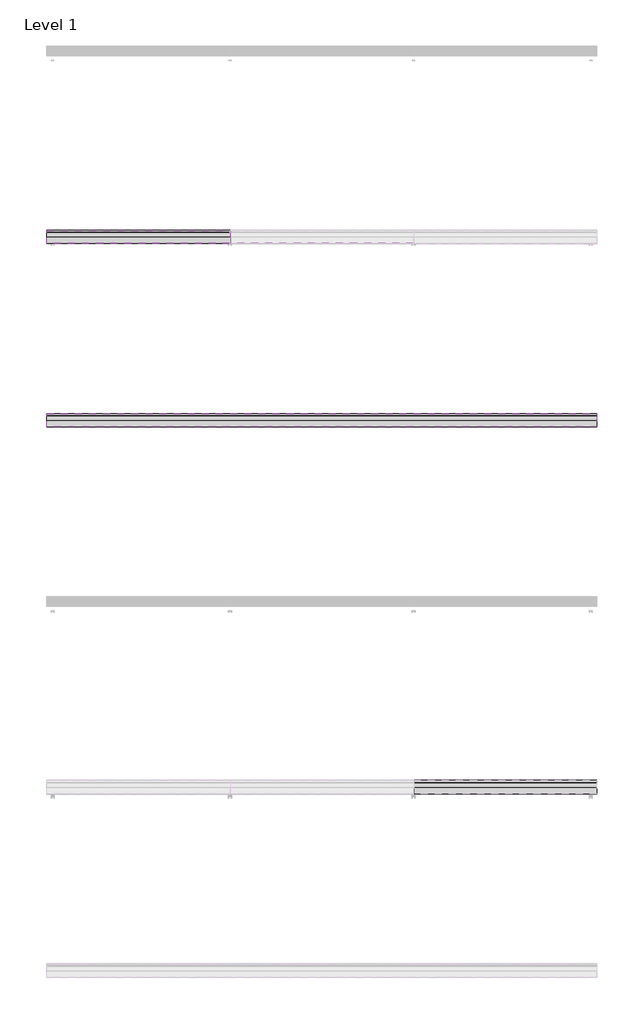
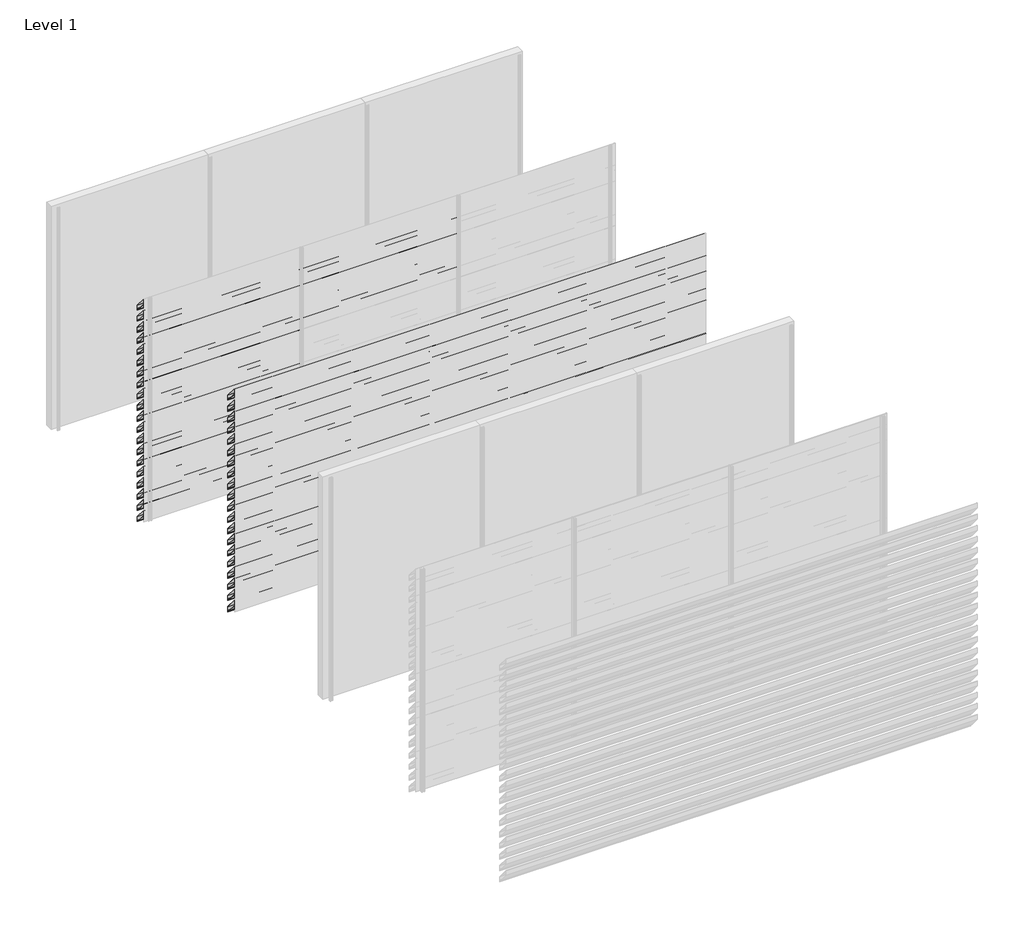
# One storey, part 14 of 16: 56 proxies.
"""IFC4 building model written with IfcOpenShell, lengths in millimetres."""

from ifc_helpers import new_model, si_unit, frame, origin, place, context, project, spatial, polyline, outline, extrude, element, save

model = new_model("IFC4")

# Units and contexts
model_context = context("Model", 3, world=origin())
ifc_project = project(units=[si_unit("LENGTHUNIT", "METRE", prefix="MILLI")], contexts=[model_context])

# Site, building, storey
site = spatial("IfcSite", under=ifc_project)
building = spatial("IfcBuilding", under=site)
storey = spatial("IfcBuildingStorey", under=building, Name="Level 1", Elevation=0.0)

# Proxies
placement = place(None, origin())
element("IfcBuildingElementProxy", 1, Name="Wall Sweeps", at=placement, inside=storey, context=model_context, shape_type="SweptSolid", body=[
    extrude(outline(polyline([(-5851.0, 2830.0), (-5851.0, 2761.0), (-5853.5, 2762.1657691), (-5853.5, 2775.7059843), (-5870.2498671, 2795.6676986), (-5880.9351065, 2795.6676986), (-5998.0, 2935.1802059), (-5998.0, 3000.0), (-5993.6469373, 3000.0), (-5851.0, 2830.0)]), holes=[polyline([(-5996.1, 2998.1), (-5996.1, 2935.8717493), (-5880.049122, 2797.5676986), (-5869.3638825, 2797.5676986), (-5852.9, 2777.9468074), (-5852.9, 2829.3084566), (-5994.5329219, 2998.1), (-5996.1, 2998.1)])]), frame((0.0, 0.0, 0.0), z_axis=(1.0, 0.0, 0.0), x_axis=(0.0, 1.0, 0.0)), (0.0, 0.0, 1.0), 2000.0),
])
element("IfcBuildingElementProxy", 2, Name="Wall Sweeps", at=placement, inside=storey, context=model_context, shape_type="SweptSolid", body=[
    extrude(outline(polyline([(-5851.0, 2680.0), (-5851.0, 2611.0), (-5853.5, 2612.1657691), (-5853.5, 2625.7059843), (-5870.2498671, 2645.6676986), (-5880.9351065, 2645.6676986), (-5998.0, 2785.1802059), (-5998.0, 2850.0), (-5993.6469373, 2850.0), (-5851.0, 2680.0)]), holes=[polyline([(-5996.1, 2848.1), (-5996.1, 2785.8717493), (-5880.049122, 2647.5676986), (-5869.3638825, 2647.5676986), (-5852.9, 2627.9468074), (-5852.9, 2679.3084566), (-5994.5329219, 2848.1), (-5996.1, 2848.1)])]), frame((0.0, 0.0, 0.0), z_axis=(1.0, 0.0, 0.0), x_axis=(0.0, 1.0, 0.0)), (0.0, 0.0, 1.0), 2000.0),
])
element("IfcBuildingElementProxy", 3, Name="Wall Sweeps", at=placement, inside=storey, context=model_context, shape_type="SweptSolid", body=[
    extrude(outline(polyline([(-5851.0, 2530.0), (-5851.0, 2461.0), (-5853.5, 2462.1657691), (-5853.5, 2475.7059843), (-5870.2498671, 2495.6676986), (-5880.9351065, 2495.6676986), (-5998.0, 2635.1802059), (-5998.0, 2700.0), (-5993.6469373, 2700.0), (-5851.0, 2530.0)]), holes=[polyline([(-5996.1, 2698.1), (-5996.1, 2635.8717493), (-5880.049122, 2497.5676986), (-5869.3638825, 2497.5676986), (-5852.9, 2477.9468074), (-5852.9, 2529.3084566), (-5994.5329219, 2698.1), (-5996.1, 2698.1)])]), frame((0.0, 0.0, 0.0), z_axis=(1.0, 0.0, 0.0), x_axis=(0.0, 1.0, 0.0)), (0.0, 0.0, 1.0), 2000.0),
])
element("IfcBuildingElementProxy", 4, Name="Wall Sweeps", at=placement, inside=storey, context=model_context, shape_type="SweptSolid", body=[
    extrude(outline(polyline([(-5851.0, 2380.0), (-5851.0, 2311.0), (-5853.5, 2312.1657691), (-5853.5, 2325.7059843), (-5870.2498671, 2345.6676986), (-5880.9351065, 2345.6676986), (-5998.0, 2485.1802059), (-5998.0, 2550.0), (-5993.6469373, 2550.0), (-5851.0, 2380.0)]), holes=[polyline([(-5996.1, 2548.1), (-5996.1, 2485.8717493), (-5880.049122, 2347.5676986), (-5869.3638825, 2347.5676986), (-5852.9, 2327.9468074), (-5852.9, 2379.3084566), (-5994.5329219, 2548.1), (-5996.1, 2548.1)])]), frame((0.0, 0.0, 0.0), z_axis=(1.0, 0.0, 0.0), x_axis=(0.0, 1.0, 0.0)), (0.0, 0.0, 1.0), 2000.0),
])
element("IfcBuildingElementProxy", 5, Name="Wall Sweeps", at=placement, inside=storey, context=model_context, shape_type="SweptSolid", body=[
    extrude(outline(polyline([(-5851.0, 2230.0), (-5851.0, 2161.0), (-5853.5, 2162.1657691), (-5853.5, 2175.7059843), (-5870.2498671, 2195.6676986), (-5880.9351065, 2195.6676986), (-5998.0, 2335.1802059), (-5998.0, 2400.0), (-5993.6469373, 2400.0), (-5851.0, 2230.0)]), holes=[polyline([(-5996.1, 2398.1), (-5996.1, 2335.8717493), (-5880.049122, 2197.5676986), (-5869.3638825, 2197.5676986), (-5852.9, 2177.9468074), (-5852.9, 2229.3084566), (-5994.5329219, 2398.1), (-5996.1, 2398.1)])]), frame((0.0, 0.0, 0.0), z_axis=(1.0, 0.0, 0.0), x_axis=(0.0, 1.0, 0.0)), (0.0, 0.0, 1.0), 2000.0),
])
element("IfcBuildingElementProxy", 6, Name="Wall Sweeps", at=placement, inside=storey, context=model_context, shape_type="SweptSolid", body=[
    extrude(outline(polyline([(-5851.0, 2080.0), (-5851.0, 2011.0), (-5853.5, 2012.1657691), (-5853.5, 2025.7059843), (-5870.2498671, 2045.6676986), (-5880.9351065, 2045.6676986), (-5998.0, 2185.1802059), (-5998.0, 2250.0), (-5993.6469373, 2250.0), (-5851.0, 2080.0)]), holes=[polyline([(-5996.1, 2248.1), (-5996.1, 2185.8717493), (-5880.049122, 2047.5676986), (-5869.3638825, 2047.5676986), (-5852.9, 2027.9468074), (-5852.9, 2079.3084566), (-5994.5329219, 2248.1), (-5996.1, 2248.1)])]), frame((0.0, 0.0, 0.0), z_axis=(1.0, 0.0, 0.0), x_axis=(0.0, 1.0, 0.0)), (0.0, 0.0, 1.0), 2000.0),
])
element("IfcBuildingElementProxy", 7, Name="Wall Sweeps", at=placement, inside=storey, context=model_context, shape_type="SweptSolid", body=[
    extrude(outline(polyline([(-5851.0, 1930.0), (-5851.0, 1861.0), (-5853.5, 1862.1657691), (-5853.5, 1875.7059843), (-5870.2498671, 1895.6676986), (-5880.9351065, 1895.6676986), (-5998.0, 2035.1802059), (-5998.0, 2100.0), (-5993.6469373, 2100.0), (-5851.0, 1930.0)]), holes=[polyline([(-5996.1, 2098.1), (-5996.1, 2035.8717493), (-5880.049122, 1897.5676986), (-5869.3638825, 1897.5676986), (-5852.9, 1877.9468074), (-5852.9, 1929.3084566), (-5994.5329219, 2098.1), (-5996.1, 2098.1)])]), frame((0.0, 0.0, 0.0), z_axis=(1.0, 0.0, 0.0), x_axis=(0.0, 1.0, 0.0)), (0.0, 0.0, 1.0), 2000.0),
])
element("IfcBuildingElementProxy", 8, Name="Wall Sweeps", at=placement, inside=storey, context=model_context, shape_type="SweptSolid", body=[
    extrude(outline(polyline([(-5851.0, 1780.0), (-5851.0, 1711.0), (-5853.5, 1712.1657691), (-5853.5, 1725.7059843), (-5870.2498671, 1745.6676986), (-5880.9351065, 1745.6676986), (-5998.0, 1885.1802059), (-5998.0, 1950.0), (-5993.6469373, 1950.0), (-5851.0, 1780.0)]), holes=[polyline([(-5996.1, 1948.1), (-5996.1, 1885.8717493), (-5880.049122, 1747.5676986), (-5869.3638825, 1747.5676986), (-5852.9, 1727.9468074), (-5852.9, 1779.3084566), (-5994.5329219, 1948.1), (-5996.1, 1948.1)])]), frame((0.0, 0.0, 0.0), z_axis=(1.0, 0.0, 0.0), x_axis=(0.0, 1.0, 0.0)), (0.0, 0.0, 1.0), 2000.0),
])
element("IfcBuildingElementProxy", 9, Name="Wall Sweeps", at=placement, inside=storey, context=model_context, shape_type="SweptSolid", body=[
    extrude(outline(polyline([(-5851.0, 1630.0), (-5851.0, 1561.0), (-5853.5, 1562.1657691), (-5853.5, 1575.7059843), (-5870.2498671, 1595.6676986), (-5880.9351065, 1595.6676986), (-5998.0, 1735.1802059), (-5998.0, 1800.0), (-5993.6469373, 1800.0), (-5851.0, 1630.0)]), holes=[polyline([(-5996.1, 1798.1), (-5996.1, 1735.8717493), (-5880.049122, 1597.5676986), (-5869.3638825, 1597.5676986), (-5852.9, 1577.9468074), (-5852.9, 1629.3084566), (-5994.5329219, 1798.1), (-5996.1, 1798.1)])]), frame((0.0, 0.0, 0.0), z_axis=(1.0, 0.0, 0.0), x_axis=(0.0, 1.0, 0.0)), (0.0, 0.0, 1.0), 2000.0),
])
element("IfcBuildingElementProxy", 10, Name="Wall Sweeps", at=placement, inside=storey, context=model_context, shape_type="SweptSolid", body=[
    extrude(outline(polyline([(-5851.0, 1480.0), (-5851.0, 1411.0), (-5853.5, 1412.1657691), (-5853.5, 1425.7059843), (-5870.2498671, 1445.6676986), (-5880.9351065, 1445.6676986), (-5998.0, 1585.1802059), (-5998.0, 1650.0), (-5993.6469373, 1650.0), (-5851.0, 1480.0)]), holes=[polyline([(-5996.1, 1648.1), (-5996.1, 1585.8717493), (-5880.049122, 1447.5676986), (-5869.3638825, 1447.5676986), (-5852.9, 1427.9468074), (-5852.9, 1479.3084566), (-5994.5329219, 1648.1), (-5996.1, 1648.1)])]), frame((0.0, 0.0, 0.0), z_axis=(1.0, 0.0, 0.0), x_axis=(0.0, 1.0, 0.0)), (0.0, 0.0, 1.0), 2000.0),
])
element("IfcBuildingElementProxy", 11, Name="Wall Sweeps", at=placement, inside=storey, context=model_context, shape_type="SweptSolid", body=[
    extrude(outline(polyline([(-5851.0, 1330.0), (-5851.0, 1261.0), (-5853.5, 1262.1657691), (-5853.5, 1275.7059843), (-5870.2498671, 1295.6676986), (-5880.9351065, 1295.6676986), (-5998.0, 1435.1802059), (-5998.0, 1500.0), (-5993.6469373, 1500.0), (-5851.0, 1330.0)]), holes=[polyline([(-5996.1, 1498.1), (-5996.1, 1435.8717493), (-5880.049122, 1297.5676986), (-5869.3638825, 1297.5676986), (-5852.9, 1277.9468074), (-5852.9, 1329.3084566), (-5994.5329219, 1498.1), (-5996.1, 1498.1)])]), frame((0.0, 0.0, 0.0), z_axis=(1.0, 0.0, 0.0), x_axis=(0.0, 1.0, 0.0)), (0.0, 0.0, 1.0), 2000.0),
])
element("IfcBuildingElementProxy", 12, Name="Wall Sweeps", at=placement, inside=storey, context=model_context, shape_type="SweptSolid", body=[
    extrude(outline(polyline([(-5851.0, 1180.0), (-5851.0, 1111.0), (-5853.5, 1112.1657691), (-5853.5, 1125.7059843), (-5870.2498671, 1145.6676986), (-5880.9351065, 1145.6676986), (-5998.0, 1285.1802059), (-5998.0, 1350.0), (-5993.6469373, 1350.0), (-5851.0, 1180.0)]), holes=[polyline([(-5996.1, 1348.1), (-5996.1, 1285.8717493), (-5880.049122, 1147.5676986), (-5869.3638825, 1147.5676986), (-5852.9, 1127.9468074), (-5852.9, 1179.3084566), (-5994.5329219, 1348.1), (-5996.1, 1348.1)])]), frame((0.0, 0.0, 0.0), z_axis=(1.0, 0.0, 0.0), x_axis=(0.0, 1.0, 0.0)), (0.0, 0.0, 1.0), 2000.0),
])
element("IfcBuildingElementProxy", 13, Name="Wall Sweeps", at=placement, inside=storey, context=model_context, shape_type="SweptSolid", body=[
    extrude(outline(polyline([(-5851.0, 1030.0), (-5851.0, 961.0), (-5853.5, 962.1657691), (-5853.5, 975.7059843), (-5870.2498671, 995.6676986), (-5880.9351065, 995.6676986), (-5998.0, 1135.1802059), (-5998.0, 1200.0), (-5993.6469373, 1200.0), (-5851.0, 1030.0)]), holes=[polyline([(-5996.1, 1198.1), (-5996.1, 1135.8717493), (-5880.049122, 997.5676986), (-5869.3638825, 997.5676986), (-5852.9, 977.9468074), (-5852.9, 1029.3084566), (-5994.5329219, 1198.1), (-5996.1, 1198.1)])]), frame((0.0, 0.0, 0.0), z_axis=(1.0, 0.0, 0.0), x_axis=(0.0, 1.0, 0.0)), (0.0, 0.0, 1.0), 2000.0),
])
element("IfcBuildingElementProxy", 14, Name="Wall Sweeps", at=placement, inside=storey, context=model_context, shape_type="SweptSolid", body=[
    extrude(outline(polyline([(-5851.0, 880.0), (-5851.0, 811.0), (-5853.5, 812.1657691), (-5853.5, 825.7059843), (-5870.2498671, 845.6676986), (-5880.9351065, 845.6676986), (-5998.0, 985.1802059), (-5998.0, 1050.0), (-5993.6469373, 1050.0), (-5851.0, 880.0)]), holes=[polyline([(-5996.1, 1048.1), (-5996.1, 985.8717493), (-5880.049122, 847.5676986), (-5869.3638825, 847.5676986), (-5852.9, 827.9468074), (-5852.9, 879.3084566), (-5994.5329219, 1048.1), (-5996.1, 1048.1)])]), frame((0.0, 0.0, 0.0), z_axis=(1.0, 0.0, 0.0), x_axis=(0.0, 1.0, 0.0)), (0.0, 0.0, 1.0), 2000.0),
])
element("IfcBuildingElementProxy", 15, Name="Wall Sweeps", at=placement, inside=storey, context=model_context, shape_type="SweptSolid", body=[
    extrude(outline(polyline([(-5851.0, 730.0), (-5851.0, 661.0), (-5853.5, 662.1657691), (-5853.5, 675.7059843), (-5870.2498671, 695.6676986), (-5880.9351065, 695.6676986), (-5998.0, 835.1802059), (-5998.0, 900.0), (-5993.6469373, 900.0), (-5851.0, 730.0)]), holes=[polyline([(-5996.1, 898.1), (-5996.1, 835.8717493), (-5880.049122, 697.5676986), (-5869.3638825, 697.5676986), (-5852.9, 677.9468074), (-5852.9, 729.3084566), (-5994.5329219, 898.1), (-5996.1, 898.1)])]), frame((0.0, 0.0, 0.0), z_axis=(1.0, 0.0, 0.0), x_axis=(0.0, 1.0, 0.0)), (0.0, 0.0, 1.0), 2000.0),
])
element("IfcBuildingElementProxy", 16, Name="Wall Sweeps", at=placement, inside=storey, context=model_context, shape_type="SweptSolid", body=[
    extrude(outline(polyline([(-5851.0, 580.0), (-5851.0, 511.0), (-5853.5, 512.1657691), (-5853.5, 525.7059843), (-5870.2498671, 545.6676986), (-5880.9351065, 545.6676986), (-5998.0, 685.1802059), (-5998.0, 750.0), (-5993.6469373, 750.0), (-5851.0, 580.0)]), holes=[polyline([(-5996.1, 748.1), (-5996.1, 685.8717493), (-5880.049122, 547.5676986), (-5869.3638825, 547.5676986), (-5852.9, 527.9468074), (-5852.9, 579.3084566), (-5994.5329219, 748.1), (-5996.1, 748.1)])]), frame((0.0, 0.0, 0.0), z_axis=(1.0, 0.0, 0.0), x_axis=(0.0, 1.0, 0.0)), (0.0, 0.0, 1.0), 2000.0),
])
element("IfcBuildingElementProxy", 17, Name="Wall Sweeps", at=placement, inside=storey, context=model_context, shape_type="SweptSolid", body=[
    extrude(outline(polyline([(-5851.0, 430.0), (-5851.0, 361.0), (-5853.5, 362.1657691), (-5853.5, 375.7059843), (-5870.2498671, 395.6676986), (-5880.9351065, 395.6676986), (-5998.0, 535.1802059), (-5998.0, 600.0), (-5993.6469373, 600.0), (-5851.0, 430.0)]), holes=[polyline([(-5996.1, 598.1), (-5996.1, 535.8717493), (-5880.049122, 397.5676986), (-5869.3638825, 397.5676986), (-5852.9, 377.9468074), (-5852.9, 429.3084566), (-5994.5329219, 598.1), (-5996.1, 598.1)])]), frame((0.0, 0.0, 0.0), z_axis=(1.0, 0.0, 0.0), x_axis=(0.0, 1.0, 0.0)), (0.0, 0.0, 1.0), 2000.0),
])
element("IfcBuildingElementProxy", 18, Name="Wall Sweeps", at=placement, inside=storey, context=model_context, shape_type="SweptSolid", body=[
    extrude(outline(polyline([(-5851.0, 280.0), (-5851.0, 211.0), (-5853.5, 212.1657691), (-5853.5, 225.7059843), (-5870.2498671, 245.6676986), (-5880.9351065, 245.6676986), (-5998.0, 385.1802059), (-5998.0, 450.0), (-5993.6469373, 450.0), (-5851.0, 280.0)]), holes=[polyline([(-5996.1, 448.1), (-5996.1, 385.8717493), (-5880.049122, 247.5676986), (-5869.3638825, 247.5676986), (-5852.9, 227.9468074), (-5852.9, 279.3084566), (-5994.5329219, 448.1), (-5996.1, 448.1)])]), frame((0.0, 0.0, 0.0), z_axis=(1.0, 0.0, 0.0), x_axis=(0.0, 1.0, 0.0)), (0.0, 0.0, 1.0), 2000.0),
])
element("IfcBuildingElementProxy", 19, Name="Wall Sweeps", at=placement, inside=storey, context=model_context, shape_type="SweptSolid", body=[
    extrude(outline(polyline([(-5851.0, 130.0), (-5851.0, 61.0), (-5853.5, 62.1657691), (-5853.5, 75.7059843), (-5870.2498671, 95.6676986), (-5880.9351065, 95.6676986), (-5998.0, 235.1802059), (-5998.0, 300.0), (-5993.6469373, 300.0), (-5851.0, 130.0)]), holes=[polyline([(-5996.1, 298.1), (-5996.1, 235.8717493), (-5880.049122, 97.5676986), (-5869.3638825, 97.5676986), (-5852.9, 77.9468074), (-5852.9, 129.3084566), (-5994.5329219, 298.1), (-5996.1, 298.1)])]), frame((0.0, 0.0, 0.0), z_axis=(1.0, 0.0, 0.0), x_axis=(0.0, 1.0, 0.0)), (0.0, 0.0, 1.0), 2000.0),
])
element("IfcBuildingElementProxy", 20, Name="Wall Sweeps", at=placement, inside=storey, context=model_context, shape_type="SweptSolid", body=[
    extrude(outline(polyline([(-5851.0, -20.0), (-5851.0, -89.0), (-5853.5, -87.8342309), (-5853.5, -74.2940157), (-5870.2498671, -54.3323014), (-5880.9351065, -54.3323014), (-5998.0, 85.1802059), (-5998.0, 150.0), (-5993.6469373, 150.0), (-5851.0, -20.0)]), holes=[polyline([(-5996.1, 148.1), (-5996.1, 85.8717493), (-5880.049122, -52.4323014), (-5869.3638825, -52.4323014), (-5852.9, -72.0531926), (-5852.9, -20.6915434), (-5994.5329219, 148.1), (-5996.1, 148.1)])]), frame((0.0, 0.0, 0.0), z_axis=(1.0, 0.0, 0.0), x_axis=(0.0, 1.0, 0.0)), (0.0, 0.0, 1.0), 2000.0),
])
element("IfcBuildingElementProxy", 21, Name="Wall Sweeps", at=placement, inside=storey, context=model_context, shape_type="SweptSolid", body=[
    extrude(outline(polyline([(-5851.0, 2830.0), (-5851.0, 2761.0), (-5853.5, 2762.1657691), (-5853.5, 2775.7059843), (-5870.2498671, 2795.6676986), (-5880.9351065, 2795.6676986), (-5998.0, 2935.1802059), (-5998.0, 3000.0), (-5993.6469373, 3000.0), (-5851.0, 2830.0)]), holes=[polyline([(-5996.1, 2998.1), (-5996.1, 2935.8717493), (-5880.049122, 2797.5676986), (-5869.3638825, 2797.5676986), (-5852.9, 2777.9468074), (-5852.9, 2829.3084566), (-5994.5329219, 2998.1), (-5996.1, 2998.1)])]), frame((2000.0, 0.0, 0.0), z_axis=(1.0, 0.0, 0.0), x_axis=(0.0, 1.0, 0.0)), (0.0, 0.0, 1.0), 2000.0),
])
element("IfcBuildingElementProxy", 22, Name="Wall Sweeps", at=placement, inside=storey, context=model_context, shape_type="SweptSolid", body=[
    extrude(outline(polyline([(-5851.0, 2680.0), (-5851.0, 2611.0), (-5853.5, 2612.1657691), (-5853.5, 2625.7059843), (-5870.2498671, 2645.6676986), (-5880.9351065, 2645.6676986), (-5998.0, 2785.1802059), (-5998.0, 2850.0), (-5993.6469373, 2850.0), (-5851.0, 2680.0)]), holes=[polyline([(-5996.1, 2848.1), (-5996.1, 2785.8717493), (-5880.049122, 2647.5676986), (-5869.3638825, 2647.5676986), (-5852.9, 2627.9468074), (-5852.9, 2679.3084566), (-5994.5329219, 2848.1), (-5996.1, 2848.1)])]), frame((2000.0, 0.0, 0.0), z_axis=(1.0, 0.0, 0.0), x_axis=(0.0, 1.0, 0.0)), (0.0, 0.0, 1.0), 2000.0),
])
element("IfcBuildingElementProxy", 23, Name="Wall Sweeps", at=placement, inside=storey, context=model_context, shape_type="SweptSolid", body=[
    extrude(outline(polyline([(-5851.0, 2530.0), (-5851.0, 2461.0), (-5853.5, 2462.1657691), (-5853.5, 2475.7059843), (-5870.2498671, 2495.6676986), (-5880.9351065, 2495.6676986), (-5998.0, 2635.1802059), (-5998.0, 2700.0), (-5993.6469373, 2700.0), (-5851.0, 2530.0)]), holes=[polyline([(-5996.1, 2698.1), (-5996.1, 2635.8717493), (-5880.049122, 2497.5676986), (-5869.3638825, 2497.5676986), (-5852.9, 2477.9468074), (-5852.9, 2529.3084566), (-5994.5329219, 2698.1), (-5996.1, 2698.1)])]), frame((2000.0, 0.0, 0.0), z_axis=(1.0, 0.0, 0.0), x_axis=(0.0, 1.0, 0.0)), (0.0, 0.0, 1.0), 2000.0),
])
element("IfcBuildingElementProxy", 24, Name="Wall Sweeps", at=placement, inside=storey, context=model_context, shape_type="SweptSolid", body=[
    extrude(outline(polyline([(-5851.0, 2380.0), (-5851.0, 2311.0), (-5853.5, 2312.1657691), (-5853.5, 2325.7059843), (-5870.2498671, 2345.6676986), (-5880.9351065, 2345.6676986), (-5998.0, 2485.1802059), (-5998.0, 2550.0), (-5993.6469373, 2550.0), (-5851.0, 2380.0)]), holes=[polyline([(-5996.1, 2548.1), (-5996.1, 2485.8717493), (-5880.049122, 2347.5676986), (-5869.3638825, 2347.5676986), (-5852.9, 2327.9468074), (-5852.9, 2379.3084566), (-5994.5329219, 2548.1), (-5996.1, 2548.1)])]), frame((2000.0, 0.0, 0.0), z_axis=(1.0, 0.0, 0.0), x_axis=(0.0, 1.0, 0.0)), (0.0, 0.0, 1.0), 2000.0),
])
element("IfcBuildingElementProxy", 25, Name="Wall Sweeps", at=placement, inside=storey, context=model_context, shape_type="SweptSolid", body=[
    extrude(outline(polyline([(-5851.0, 2230.0), (-5851.0, 2161.0), (-5853.5, 2162.1657691), (-5853.5, 2175.7059843), (-5870.2498671, 2195.6676986), (-5880.9351065, 2195.6676986), (-5998.0, 2335.1802059), (-5998.0, 2400.0), (-5993.6469373, 2400.0), (-5851.0, 2230.0)]), holes=[polyline([(-5996.1, 2398.1), (-5996.1, 2335.8717493), (-5880.049122, 2197.5676986), (-5869.3638825, 2197.5676986), (-5852.9, 2177.9468074), (-5852.9, 2229.3084566), (-5994.5329219, 2398.1), (-5996.1, 2398.1)])]), frame((2000.0, 0.0, 0.0), z_axis=(1.0, 0.0, 0.0), x_axis=(0.0, 1.0, 0.0)), (0.0, 0.0, 1.0), 2000.0),
])
element("IfcBuildingElementProxy", 26, Name="Wall Sweeps", at=placement, inside=storey, context=model_context, shape_type="SweptSolid", body=[
    extrude(outline(polyline([(-5851.0, 2080.0), (-5851.0, 2011.0), (-5853.5, 2012.1657691), (-5853.5, 2025.7059843), (-5870.2498671, 2045.6676986), (-5880.9351065, 2045.6676986), (-5998.0, 2185.1802059), (-5998.0, 2250.0), (-5993.6469373, 2250.0), (-5851.0, 2080.0)]), holes=[polyline([(-5996.1, 2248.1), (-5996.1, 2185.8717493), (-5880.049122, 2047.5676986), (-5869.3638825, 2047.5676986), (-5852.9, 2027.9468074), (-5852.9, 2079.3084566), (-5994.5329219, 2248.1), (-5996.1, 2248.1)])]), frame((2000.0, 0.0, 0.0), z_axis=(1.0, 0.0, 0.0), x_axis=(0.0, 1.0, 0.0)), (0.0, 0.0, 1.0), 2000.0),
])
element("IfcBuildingElementProxy", 27, Name="Wall Sweeps", at=placement, inside=storey, context=model_context, shape_type="SweptSolid", body=[
    extrude(outline(polyline([(-5851.0, 1930.0), (-5851.0, 1861.0), (-5853.5, 1862.1657691), (-5853.5, 1875.7059843), (-5870.2498671, 1895.6676986), (-5880.9351065, 1895.6676986), (-5998.0, 2035.1802059), (-5998.0, 2100.0), (-5993.6469373, 2100.0), (-5851.0, 1930.0)]), holes=[polyline([(-5996.1, 2098.1), (-5996.1, 2035.8717493), (-5880.049122, 1897.5676986), (-5869.3638825, 1897.5676986), (-5852.9, 1877.9468074), (-5852.9, 1929.3084566), (-5994.5329219, 2098.1), (-5996.1, 2098.1)])]), frame((2000.0, 0.0, 0.0), z_axis=(1.0, 0.0, 0.0), x_axis=(0.0, 1.0, 0.0)), (0.0, 0.0, 1.0), 2000.0),
])
element("IfcBuildingElementProxy", 28, Name="Wall Sweeps", at=placement, inside=storey, context=model_context, shape_type="SweptSolid", body=[
    extrude(outline(polyline([(-7851.0, 2830.0), (-7851.0, 2761.0), (-7853.5, 2762.1657691), (-7853.5, 2775.7059843), (-7870.2498671, 2795.6676986), (-7880.9351065, 2795.6676986), (-7998.0, 2935.1802059), (-7998.0, 3000.0), (-7993.6469373, 3000.0), (-7851.0, 2830.0)]), holes=[polyline([(-7996.1, 2998.1), (-7996.1, 2935.8717493), (-7880.049122, 2797.5676986), (-7869.3638825, 2797.5676986), (-7852.9, 2777.9468074), (-7852.9, 2829.3084566), (-7994.5329219, 2998.1), (-7996.1, 2998.1)])]), frame((0.0, 0.0, 0.0), z_axis=(1.0, 0.0, 0.0), x_axis=(0.0, 1.0, 0.0)), (0.0, 0.0, 1.0), 6000.0),
])
element("IfcBuildingElementProxy", 29, Name="Wall Sweeps", at=placement, inside=storey, context=model_context, shape_type="SweptSolid", body=[
    extrude(outline(polyline([(-7851.0, 2680.0), (-7851.0, 2611.0), (-7853.5, 2612.1657691), (-7853.5, 2625.7059843), (-7870.2498671, 2645.6676986), (-7880.9351065, 2645.6676986), (-7998.0, 2785.1802059), (-7998.0, 2850.0), (-7993.6469373, 2850.0), (-7851.0, 2680.0)]), holes=[polyline([(-7996.1, 2848.1), (-7996.1, 2785.8717493), (-7880.049122, 2647.5676986), (-7869.3638825, 2647.5676986), (-7852.9, 2627.9468074), (-7852.9, 2679.3084566), (-7994.5329219, 2848.1), (-7996.1, 2848.1)])]), frame((0.0, 0.0, 0.0), z_axis=(1.0, 0.0, 0.0), x_axis=(0.0, 1.0, 0.0)), (0.0, 0.0, 1.0), 6000.0),
])
element("IfcBuildingElementProxy", 30, Name="Wall Sweeps", at=placement, inside=storey, context=model_context, shape_type="SweptSolid", body=[
    extrude(outline(polyline([(-7851.0, 2530.0), (-7851.0, 2461.0), (-7853.5, 2462.1657691), (-7853.5, 2475.7059843), (-7870.2498671, 2495.6676986), (-7880.9351065, 2495.6676986), (-7998.0, 2635.1802059), (-7998.0, 2700.0), (-7993.6469373, 2700.0), (-7851.0, 2530.0)]), holes=[polyline([(-7996.1, 2698.1), (-7996.1, 2635.8717493), (-7880.049122, 2497.5676986), (-7869.3638825, 2497.5676986), (-7852.9, 2477.9468074), (-7852.9, 2529.3084566), (-7994.5329219, 2698.1), (-7996.1, 2698.1)])]), frame((0.0, 0.0, 0.0), z_axis=(1.0, 0.0, 0.0), x_axis=(0.0, 1.0, 0.0)), (0.0, 0.0, 1.0), 6000.0),
])
element("IfcBuildingElementProxy", 31, Name="Wall Sweeps", at=placement, inside=storey, context=model_context, shape_type="SweptSolid", body=[
    extrude(outline(polyline([(-7851.0, 2380.0), (-7851.0, 2311.0), (-7853.5, 2312.1657691), (-7853.5, 2325.7059843), (-7870.2498671, 2345.6676986), (-7880.9351065, 2345.6676986), (-7998.0, 2485.1802059), (-7998.0, 2550.0), (-7993.6469373, 2550.0), (-7851.0, 2380.0)]), holes=[polyline([(-7996.1, 2548.1), (-7996.1, 2485.8717493), (-7880.049122, 2347.5676986), (-7869.3638825, 2347.5676986), (-7852.9, 2327.9468074), (-7852.9, 2379.3084566), (-7994.5329219, 2548.1), (-7996.1, 2548.1)])]), frame((0.0, 0.0, 0.0), z_axis=(1.0, 0.0, 0.0), x_axis=(0.0, 1.0, 0.0)), (0.0, 0.0, 1.0), 6000.0),
])
element("IfcBuildingElementProxy", 32, Name="Wall Sweeps", at=placement, inside=storey, context=model_context, shape_type="SweptSolid", body=[
    extrude(outline(polyline([(-7851.0, 2230.0), (-7851.0, 2161.0), (-7853.5, 2162.1657691), (-7853.5, 2175.7059843), (-7870.2498671, 2195.6676986), (-7880.9351065, 2195.6676986), (-7998.0, 2335.1802059), (-7998.0, 2400.0), (-7993.6469373, 2400.0), (-7851.0, 2230.0)]), holes=[polyline([(-7996.1, 2398.1), (-7996.1, 2335.8717493), (-7880.049122, 2197.5676986), (-7869.3638825, 2197.5676986), (-7852.9, 2177.9468074), (-7852.9, 2229.3084566), (-7994.5329219, 2398.1), (-7996.1, 2398.1)])]), frame((0.0, 0.0, 0.0), z_axis=(1.0, 0.0, 0.0), x_axis=(0.0, 1.0, 0.0)), (0.0, 0.0, 1.0), 6000.0),
])
element("IfcBuildingElementProxy", 33, Name="Wall Sweeps", at=placement, inside=storey, context=model_context, shape_type="SweptSolid", body=[
    extrude(outline(polyline([(-7851.0, 2080.0), (-7851.0, 2011.0), (-7853.5, 2012.1657691), (-7853.5, 2025.7059843), (-7870.2498671, 2045.6676986), (-7880.9351065, 2045.6676986), (-7998.0, 2185.1802059), (-7998.0, 2250.0), (-7993.6469373, 2250.0), (-7851.0, 2080.0)]), holes=[polyline([(-7996.1, 2248.1), (-7996.1, 2185.8717493), (-7880.049122, 2047.5676986), (-7869.3638825, 2047.5676986), (-7852.9, 2027.9468074), (-7852.9, 2079.3084566), (-7994.5329219, 2248.1), (-7996.1, 2248.1)])]), frame((0.0, 0.0, 0.0), z_axis=(1.0, 0.0, 0.0), x_axis=(0.0, 1.0, 0.0)), (0.0, 0.0, 1.0), 6000.0),
])
element("IfcBuildingElementProxy", 34, Name="Wall Sweeps", at=placement, inside=storey, context=model_context, shape_type="SweptSolid", body=[
    extrude(outline(polyline([(-7851.0, 1930.0), (-7851.0, 1861.0), (-7853.5, 1862.1657691), (-7853.5, 1875.7059843), (-7870.2498671, 1895.6676986), (-7880.9351065, 1895.6676986), (-7998.0, 2035.1802059), (-7998.0, 2100.0), (-7993.6469373, 2100.0), (-7851.0, 1930.0)]), holes=[polyline([(-7996.1, 2098.1), (-7996.1, 2035.8717493), (-7880.049122, 1897.5676986), (-7869.3638825, 1897.5676986), (-7852.9, 1877.9468074), (-7852.9, 1929.3084566), (-7994.5329219, 2098.1), (-7996.1, 2098.1)])]), frame((0.0, 0.0, 0.0), z_axis=(1.0, 0.0, 0.0), x_axis=(0.0, 1.0, 0.0)), (0.0, 0.0, 1.0), 6000.0),
])
element("IfcBuildingElementProxy", 35, Name="Wall Sweeps", at=placement, inside=storey, context=model_context, shape_type="SweptSolid", body=[
    extrude(outline(polyline([(-7851.0, 1780.0), (-7851.0, 1711.0), (-7853.5, 1712.1657691), (-7853.5, 1725.7059843), (-7870.2498671, 1745.6676986), (-7880.9351065, 1745.6676986), (-7998.0, 1885.1802059), (-7998.0, 1950.0), (-7993.6469373, 1950.0), (-7851.0, 1780.0)]), holes=[polyline([(-7996.1, 1948.1), (-7996.1, 1885.8717493), (-7880.049122, 1747.5676986), (-7869.3638825, 1747.5676986), (-7852.9, 1727.9468074), (-7852.9, 1779.3084566), (-7994.5329219, 1948.1), (-7996.1, 1948.1)])]), frame((0.0, 0.0, 0.0), z_axis=(1.0, 0.0, 0.0), x_axis=(0.0, 1.0, 0.0)), (0.0, 0.0, 1.0), 6000.0),
])
element("IfcBuildingElementProxy", 36, Name="Wall Sweeps", at=placement, inside=storey, context=model_context, shape_type="SweptSolid", body=[
    extrude(outline(polyline([(-7851.0, 1630.0), (-7851.0, 1561.0), (-7853.5, 1562.1657691), (-7853.5, 1575.7059843), (-7870.2498671, 1595.6676986), (-7880.9351065, 1595.6676986), (-7998.0, 1735.1802059), (-7998.0, 1800.0), (-7993.6469373, 1800.0), (-7851.0, 1630.0)]), holes=[polyline([(-7996.1, 1798.1), (-7996.1, 1735.8717493), (-7880.049122, 1597.5676986), (-7869.3638825, 1597.5676986), (-7852.9, 1577.9468074), (-7852.9, 1629.3084566), (-7994.5329219, 1798.1), (-7996.1, 1798.1)])]), frame((0.0, 0.0, 0.0), z_axis=(1.0, 0.0, 0.0), x_axis=(0.0, 1.0, 0.0)), (0.0, 0.0, 1.0), 6000.0),
])
element("IfcBuildingElementProxy", 37, Name="Wall Sweeps", at=placement, inside=storey, context=model_context, shape_type="SweptSolid", body=[
    extrude(outline(polyline([(-7851.0, 1480.0), (-7851.0, 1411.0), (-7853.5, 1412.1657691), (-7853.5, 1425.7059843), (-7870.2498671, 1445.6676986), (-7880.9351065, 1445.6676986), (-7998.0, 1585.1802059), (-7998.0, 1650.0), (-7993.6469373, 1650.0), (-7851.0, 1480.0)]), holes=[polyline([(-7996.1, 1648.1), (-7996.1, 1585.8717493), (-7880.049122, 1447.5676986), (-7869.3638825, 1447.5676986), (-7852.9, 1427.9468074), (-7852.9, 1479.3084566), (-7994.5329219, 1648.1), (-7996.1, 1648.1)])]), frame((0.0, 0.0, 0.0), z_axis=(1.0, 0.0, 0.0), x_axis=(0.0, 1.0, 0.0)), (0.0, 0.0, 1.0), 6000.0),
])
element("IfcBuildingElementProxy", 38, Name="Wall Sweeps", at=placement, inside=storey, context=model_context, shape_type="SweptSolid", body=[
    extrude(outline(polyline([(-7851.0, 1330.0), (-7851.0, 1261.0), (-7853.5, 1262.1657691), (-7853.5, 1275.7059843), (-7870.2498671, 1295.6676986), (-7880.9351065, 1295.6676986), (-7998.0, 1435.1802059), (-7998.0, 1500.0), (-7993.6469373, 1500.0), (-7851.0, 1330.0)]), holes=[polyline([(-7996.1, 1498.1), (-7996.1, 1435.8717493), (-7880.049122, 1297.5676986), (-7869.3638825, 1297.5676986), (-7852.9, 1277.9468074), (-7852.9, 1329.3084566), (-7994.5329219, 1498.1), (-7996.1, 1498.1)])]), frame((0.0, 0.0, 0.0), z_axis=(1.0, 0.0, 0.0), x_axis=(0.0, 1.0, 0.0)), (0.0, 0.0, 1.0), 6000.0),
])
element("IfcBuildingElementProxy", 39, Name="Wall Sweeps", at=placement, inside=storey, context=model_context, shape_type="SweptSolid", body=[
    extrude(outline(polyline([(-7851.0, 1180.0), (-7851.0, 1111.0), (-7853.5, 1112.1657691), (-7853.5, 1125.7059843), (-7870.2498671, 1145.6676986), (-7880.9351065, 1145.6676986), (-7998.0, 1285.1802059), (-7998.0, 1350.0), (-7993.6469373, 1350.0), (-7851.0, 1180.0)]), holes=[polyline([(-7996.1, 1348.1), (-7996.1, 1285.8717493), (-7880.049122, 1147.5676986), (-7869.3638825, 1147.5676986), (-7852.9, 1127.9468074), (-7852.9, 1179.3084566), (-7994.5329219, 1348.1), (-7996.1, 1348.1)])]), frame((0.0, 0.0, 0.0), z_axis=(1.0, 0.0, 0.0), x_axis=(0.0, 1.0, 0.0)), (0.0, 0.0, 1.0), 6000.0),
])
element("IfcBuildingElementProxy", 40, Name="Wall Sweeps", at=placement, inside=storey, context=model_context, shape_type="SweptSolid", body=[
    extrude(outline(polyline([(-7851.0, 1030.0), (-7851.0, 961.0), (-7853.5, 962.1657691), (-7853.5, 975.7059843), (-7870.2498671, 995.6676986), (-7880.9351065, 995.6676986), (-7998.0, 1135.1802059), (-7998.0, 1200.0), (-7993.6469373, 1200.0), (-7851.0, 1030.0)]), holes=[polyline([(-7996.1, 1198.1), (-7996.1, 1135.8717493), (-7880.049122, 997.5676986), (-7869.3638825, 997.5676986), (-7852.9, 977.9468074), (-7852.9, 1029.3084566), (-7994.5329219, 1198.1), (-7996.1, 1198.1)])]), frame((0.0, 0.0, 0.0), z_axis=(1.0, 0.0, 0.0), x_axis=(0.0, 1.0, 0.0)), (0.0, 0.0, 1.0), 6000.0),
])
element("IfcBuildingElementProxy", 41, Name="Wall Sweeps", at=placement, inside=storey, context=model_context, shape_type="SweptSolid", body=[
    extrude(outline(polyline([(-7851.0, 880.0), (-7851.0, 811.0), (-7853.5, 812.1657691), (-7853.5, 825.7059843), (-7870.2498671, 845.6676986), (-7880.9351065, 845.6676986), (-7998.0, 985.1802059), (-7998.0, 1050.0), (-7993.6469373, 1050.0), (-7851.0, 880.0)]), holes=[polyline([(-7996.1, 1048.1), (-7996.1, 985.8717493), (-7880.049122, 847.5676986), (-7869.3638825, 847.5676986), (-7852.9, 827.9468074), (-7852.9, 879.3084566), (-7994.5329219, 1048.1), (-7996.1, 1048.1)])]), frame((0.0, 0.0, 0.0), z_axis=(1.0, 0.0, 0.0), x_axis=(0.0, 1.0, 0.0)), (0.0, 0.0, 1.0), 6000.0),
])
element("IfcBuildingElementProxy", 42, Name="Wall Sweeps", at=placement, inside=storey, context=model_context, shape_type="SweptSolid", body=[
    extrude(outline(polyline([(-7851.0, 730.0), (-7851.0, 661.0), (-7853.5, 662.1657691), (-7853.5, 675.7059843), (-7870.2498671, 695.6676986), (-7880.9351065, 695.6676986), (-7998.0, 835.1802059), (-7998.0, 900.0), (-7993.6469373, 900.0), (-7851.0, 730.0)]), holes=[polyline([(-7996.1, 898.1), (-7996.1, 835.8717493), (-7880.049122, 697.5676986), (-7869.3638825, 697.5676986), (-7852.9, 677.9468074), (-7852.9, 729.3084566), (-7994.5329219, 898.1), (-7996.1, 898.1)])]), frame((0.0, 0.0, 0.0), z_axis=(1.0, 0.0, 0.0), x_axis=(0.0, 1.0, 0.0)), (0.0, 0.0, 1.0), 6000.0),
])
element("IfcBuildingElementProxy", 43, Name="Wall Sweeps", at=placement, inside=storey, context=model_context, shape_type="SweptSolid", body=[
    extrude(outline(polyline([(-7851.0, 580.0), (-7851.0, 511.0), (-7853.5, 512.1657691), (-7853.5, 525.7059843), (-7870.2498671, 545.6676986), (-7880.9351065, 545.6676986), (-7998.0, 685.1802059), (-7998.0, 750.0), (-7993.6469373, 750.0), (-7851.0, 580.0)]), holes=[polyline([(-7996.1, 748.1), (-7996.1, 685.8717493), (-7880.049122, 547.5676986), (-7869.3638825, 547.5676986), (-7852.9, 527.9468074), (-7852.9, 579.3084566), (-7994.5329219, 748.1), (-7996.1, 748.1)])]), frame((0.0, 0.0, 0.0), z_axis=(1.0, 0.0, 0.0), x_axis=(0.0, 1.0, 0.0)), (0.0, 0.0, 1.0), 6000.0),
])
element("IfcBuildingElementProxy", 44, Name="Wall Sweeps", at=placement, inside=storey, context=model_context, shape_type="SweptSolid", body=[
    extrude(outline(polyline([(-7851.0, 430.0), (-7851.0, 361.0), (-7853.5, 362.1657691), (-7853.5, 375.7059843), (-7870.2498671, 395.6676986), (-7880.9351065, 395.6676986), (-7998.0, 535.1802059), (-7998.0, 600.0), (-7993.6469373, 600.0), (-7851.0, 430.0)]), holes=[polyline([(-7996.1, 598.1), (-7996.1, 535.8717493), (-7880.049122, 397.5676986), (-7869.3638825, 397.5676986), (-7852.9, 377.9468074), (-7852.9, 429.3084566), (-7994.5329219, 598.1), (-7996.1, 598.1)])]), frame((0.0, 0.0, 0.0), z_axis=(1.0, 0.0, 0.0), x_axis=(0.0, 1.0, 0.0)), (0.0, 0.0, 1.0), 6000.0),
])
element("IfcBuildingElementProxy", 45, Name="Wall Sweeps", at=placement, inside=storey, context=model_context, shape_type="SweptSolid", body=[
    extrude(outline(polyline([(-7851.0, 280.0), (-7851.0, 211.0), (-7853.5, 212.1657691), (-7853.5, 225.7059843), (-7870.2498671, 245.6676986), (-7880.9351065, 245.6676986), (-7998.0, 385.1802059), (-7998.0, 450.0), (-7993.6469373, 450.0), (-7851.0, 280.0)]), holes=[polyline([(-7996.1, 448.1), (-7996.1, 385.8717493), (-7880.049122, 247.5676986), (-7869.3638825, 247.5676986), (-7852.9, 227.9468074), (-7852.9, 279.3084566), (-7994.5329219, 448.1), (-7996.1, 448.1)])]), frame((0.0, 0.0, 0.0), z_axis=(1.0, 0.0, 0.0), x_axis=(0.0, 1.0, 0.0)), (0.0, 0.0, 1.0), 6000.0),
])
element("IfcBuildingElementProxy", 46, Name="Wall Sweeps", at=placement, inside=storey, context=model_context, shape_type="SweptSolid", body=[
    extrude(outline(polyline([(-7851.0, 130.0), (-7851.0, 61.0), (-7853.5, 62.1657691), (-7853.5, 75.7059843), (-7870.2498671, 95.6676986), (-7880.9351065, 95.6676986), (-7998.0, 235.1802059), (-7998.0, 300.0), (-7993.6469373, 300.0), (-7851.0, 130.0)]), holes=[polyline([(-7996.1, 298.1), (-7996.1, 235.8717493), (-7880.049122, 97.5676986), (-7869.3638825, 97.5676986), (-7852.9, 77.9468074), (-7852.9, 129.3084566), (-7994.5329219, 298.1), (-7996.1, 298.1)])]), frame((0.0, 0.0, 0.0), z_axis=(1.0, 0.0, 0.0), x_axis=(0.0, 1.0, 0.0)), (0.0, 0.0, 1.0), 6000.0),
])
element("IfcBuildingElementProxy", 47, Name="Wall Sweeps", at=placement, inside=storey, context=model_context, shape_type="SweptSolid", body=[
    extrude(outline(polyline([(-7851.0, -20.0), (-7851.0, -89.0), (-7853.5, -87.8342309), (-7853.5, -74.2940157), (-7870.2498671, -54.3323014), (-7880.9351065, -54.3323014), (-7998.0, 85.1802059), (-7998.0, 150.0), (-7993.6469373, 150.0), (-7851.0, -20.0)]), holes=[polyline([(-7996.1, 148.1), (-7996.1, 85.8717493), (-7880.049122, -52.4323014), (-7869.3638825, -52.4323014), (-7852.9, -72.0531926), (-7852.9, -20.6915434), (-7994.5329219, 148.1), (-7996.1, 148.1)])]), frame((0.0, 0.0, 0.0), z_axis=(1.0, 0.0, 0.0), x_axis=(0.0, 1.0, 0.0)), (0.0, 0.0, 1.0), 6000.0),
])
element("IfcBuildingElementProxy", 48, Name="Wall Sweeps", at=placement, inside=storey, context=model_context, shape_type="SweptSolid", body=[
    extrude(outline(polyline([(-11851.0, 1180.0), (-11851.0, 1111.0), (-11853.5, 1112.1657691), (-11853.5, 1125.7059843), (-11870.2498671, 1145.6676986), (-11880.9351065, 1145.6676986), (-11998.0, 1285.1802059), (-11998.0, 1350.0), (-11993.6469373, 1350.0), (-11851.0, 1180.0)]), holes=[polyline([(-11996.1, 1348.1), (-11996.1, 1285.8717493), (-11880.049122, 1147.5676986), (-11869.3638825, 1147.5676986), (-11852.9, 1127.9468074), (-11852.9, 1179.3084566), (-11994.5329219, 1348.1), (-11996.1, 1348.1)])]), frame((4000.0, 0.0, 0.0), z_axis=(1.0, 0.0, 0.0), x_axis=(0.0, 1.0, 0.0)), (0.0, 0.0, 1.0), 2000.0),
])
element("IfcBuildingElementProxy", 49, Name="Wall Sweeps", at=placement, inside=storey, context=model_context, shape_type="SweptSolid", body=[
    extrude(outline(polyline([(-11851.0, 1030.0), (-11851.0, 961.0), (-11853.5, 962.1657691), (-11853.5, 975.7059843), (-11870.2498671, 995.6676986), (-11880.9351065, 995.6676986), (-11998.0, 1135.1802059), (-11998.0, 1200.0), (-11993.6469373, 1200.0), (-11851.0, 1030.0)]), holes=[polyline([(-11996.1, 1198.1), (-11996.1, 1135.8717493), (-11880.049122, 997.5676986), (-11869.3638825, 997.5676986), (-11852.9, 977.9468074), (-11852.9, 1029.3084566), (-11994.5329219, 1198.1), (-11996.1, 1198.1)])]), frame((4000.0, 0.0, 0.0), z_axis=(1.0, 0.0, 0.0), x_axis=(0.0, 1.0, 0.0)), (0.0, 0.0, 1.0), 2000.0),
])
element("IfcBuildingElementProxy", 50, Name="Wall Sweeps", at=placement, inside=storey, context=model_context, shape_type="SweptSolid", body=[
    extrude(outline(polyline([(-11851.0, 880.0), (-11851.0, 811.0), (-11853.5, 812.1657691), (-11853.5, 825.7059843), (-11870.2498671, 845.6676986), (-11880.9351065, 845.6676986), (-11998.0, 985.1802059), (-11998.0, 1050.0), (-11993.6469373, 1050.0), (-11851.0, 880.0)]), holes=[polyline([(-11996.1, 1048.1), (-11996.1, 985.8717493), (-11880.049122, 847.5676986), (-11869.3638825, 847.5676986), (-11852.9, 827.9468074), (-11852.9, 879.3084566), (-11994.5329219, 1048.1), (-11996.1, 1048.1)])]), frame((4000.0, 0.0, 0.0), z_axis=(1.0, 0.0, 0.0), x_axis=(0.0, 1.0, 0.0)), (0.0, 0.0, 1.0), 2000.0),
])
element("IfcBuildingElementProxy", 51, Name="Wall Sweeps", at=placement, inside=storey, context=model_context, shape_type="SweptSolid", body=[
    extrude(outline(polyline([(-11851.0, 730.0), (-11851.0, 661.0), (-11853.5, 662.1657691), (-11853.5, 675.7059843), (-11870.2498671, 695.6676986), (-11880.9351065, 695.6676986), (-11998.0, 835.1802059), (-11998.0, 900.0), (-11993.6469373, 900.0), (-11851.0, 730.0)]), holes=[polyline([(-11996.1, 898.1), (-11996.1, 835.8717493), (-11880.049122, 697.5676986), (-11869.3638825, 697.5676986), (-11852.9, 677.9468074), (-11852.9, 729.3084566), (-11994.5329219, 898.1), (-11996.1, 898.1)])]), frame((4000.0, 0.0, 0.0), z_axis=(1.0, 0.0, 0.0), x_axis=(0.0, 1.0, 0.0)), (0.0, 0.0, 1.0), 2000.0),
])
element("IfcBuildingElementProxy", 52, Name="Wall Sweeps", at=placement, inside=storey, context=model_context, shape_type="SweptSolid", body=[
    extrude(outline(polyline([(-11851.0, 580.0), (-11851.0, 511.0), (-11853.5, 512.1657691), (-11853.5, 525.7059843), (-11870.2498671, 545.6676986), (-11880.9351065, 545.6676986), (-11998.0, 685.1802059), (-11998.0, 750.0), (-11993.6469373, 750.0), (-11851.0, 580.0)]), holes=[polyline([(-11996.1, 748.1), (-11996.1, 685.8717493), (-11880.049122, 547.5676986), (-11869.3638825, 547.5676986), (-11852.9, 527.9468074), (-11852.9, 579.3084566), (-11994.5329219, 748.1), (-11996.1, 748.1)])]), frame((4000.0, 0.0, 0.0), z_axis=(1.0, 0.0, 0.0), x_axis=(0.0, 1.0, 0.0)), (0.0, 0.0, 1.0), 2000.0),
])
element("IfcBuildingElementProxy", 53, Name="Wall Sweeps", at=placement, inside=storey, context=model_context, shape_type="SweptSolid", body=[
    extrude(outline(polyline([(-11851.0, 430.0), (-11851.0, 361.0), (-11853.5, 362.1657691), (-11853.5, 375.7059843), (-11870.2498671, 395.6676986), (-11880.9351065, 395.6676986), (-11998.0, 535.1802059), (-11998.0, 600.0), (-11993.6469373, 600.0), (-11851.0, 430.0)]), holes=[polyline([(-11996.1, 598.1), (-11996.1, 535.8717493), (-11880.049122, 397.5676986), (-11869.3638825, 397.5676986), (-11852.9, 377.9468074), (-11852.9, 429.3084566), (-11994.5329219, 598.1), (-11996.1, 598.1)])]), frame((4000.0, 0.0, 0.0), z_axis=(1.0, 0.0, 0.0), x_axis=(0.0, 1.0, 0.0)), (0.0, 0.0, 1.0), 2000.0),
])
element("IfcBuildingElementProxy", 54, Name="Wall Sweeps", at=placement, inside=storey, context=model_context, shape_type="SweptSolid", body=[
    extrude(outline(polyline([(-11851.0, 280.0), (-11851.0, 211.0), (-11853.5, 212.1657691), (-11853.5, 225.7059843), (-11870.2498671, 245.6676986), (-11880.9351065, 245.6676986), (-11998.0, 385.1802059), (-11998.0, 450.0), (-11993.6469373, 450.0), (-11851.0, 280.0)]), holes=[polyline([(-11996.1, 448.1), (-11996.1, 385.8717493), (-11880.049122, 247.5676986), (-11869.3638825, 247.5676986), (-11852.9, 227.9468074), (-11852.9, 279.3084566), (-11994.5329219, 448.1), (-11996.1, 448.1)])]), frame((4000.0, 0.0, 0.0), z_axis=(1.0, 0.0, 0.0), x_axis=(0.0, 1.0, 0.0)), (0.0, 0.0, 1.0), 2000.0),
])
element("IfcBuildingElementProxy", 55, Name="Wall Sweeps", at=placement, inside=storey, context=model_context, shape_type="SweptSolid", body=[
    extrude(outline(polyline([(-11851.0, 130.0), (-11851.0, 61.0), (-11853.5, 62.1657691), (-11853.5, 75.7059843), (-11870.2498671, 95.6676986), (-11880.9351065, 95.6676986), (-11998.0, 235.1802059), (-11998.0, 300.0), (-11993.6469373, 300.0), (-11851.0, 130.0)]), holes=[polyline([(-11996.1, 298.1), (-11996.1, 235.8717493), (-11880.049122, 97.5676986), (-11869.3638825, 97.5676986), (-11852.9, 77.9468074), (-11852.9, 129.3084566), (-11994.5329219, 298.1), (-11996.1, 298.1)])]), frame((4000.0, 0.0, 0.0), z_axis=(1.0, 0.0, 0.0), x_axis=(0.0, 1.0, 0.0)), (0.0, 0.0, 1.0), 2000.0),
])
element("IfcBuildingElementProxy", 56, Name="Wall Sweeps", at=placement, inside=storey, context=model_context, shape_type="SweptSolid", body=[
    extrude(outline(polyline([(-11851.0, -20.0), (-11851.0, -89.0), (-11853.5, -87.8342309), (-11853.5, -74.2940157), (-11870.2498671, -54.3323014), (-11880.9351065, -54.3323014), (-11998.0, 85.1802059), (-11998.0, 150.0), (-11993.6469373, 150.0), (-11851.0, -20.0)]), holes=[polyline([(-11996.1, 148.1), (-11996.1, 85.8717493), (-11880.049122, -52.4323014), (-11869.3638825, -52.4323014), (-11852.9, -72.0531926), (-11852.9, -20.6915434), (-11994.5329219, 148.1), (-11996.1, 148.1)])]), frame((4000.0, 0.0, 0.0), z_axis=(1.0, 0.0, 0.0), x_axis=(0.0, 1.0, 0.0)), (0.0, 0.0, 1.0), 2000.0),
])

save(model, "model.ifc")
